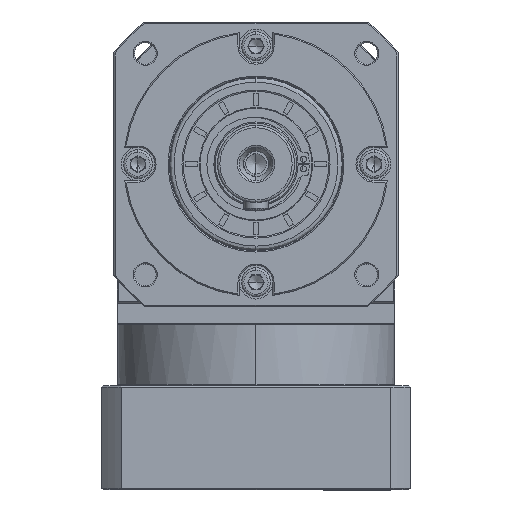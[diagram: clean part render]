
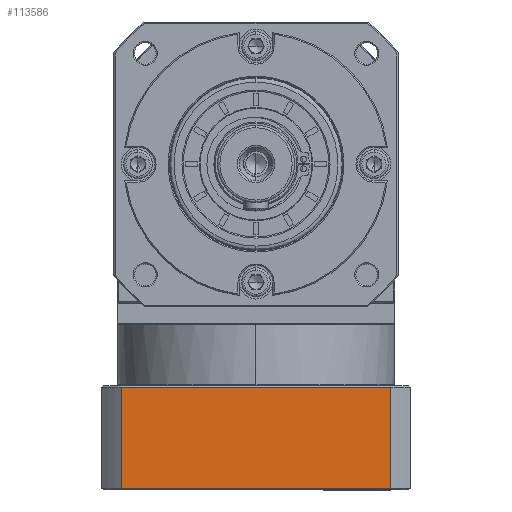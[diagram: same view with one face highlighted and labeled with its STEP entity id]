
A CAD part, top view. The second image highlights one B-rep face of the part: STEP entity #113586.
In plain terms, the highlighted planar face has unit normal (0, 0, 1).
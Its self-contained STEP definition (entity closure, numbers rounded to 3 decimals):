
#1876 = ORIENTED_EDGE ( 'NONE', *, *, #34845, .F. ) ;
#7610 = ORIENTED_EDGE ( 'NONE', *, *, #108101, .F. ) ;
#7677 = CARTESIAN_POINT ( 'NONE',  ( -102.715, 90.11, 127.258 ) ) ;
#11389 = CARTESIAN_POINT ( 'NONE',  ( -222.652, -162.804, 127.258 ) ) ;
#12661 = FACE_OUTER_BOUND ( 'NONE', #72425, .T. ) ;
#15744 = LINE ( 'NONE', #7677, #67215 ) ;
#20593 = CARTESIAN_POINT ( 'NONE',  ( -102.715, -204.804, 127.258 ) ) ;
#26061 = CARTESIAN_POINT ( 'NONE',  ( -222.652, -204.804, 127.258 ) ) ;
#26830 = CARTESIAN_POINT ( 'NONE',  ( -102.715, -162.804, 127.258 ) ) ;
#34650 = DIRECTION ( 'NONE',  ( -1., 0., 0. ) ) ;
#34845 = EDGE_CURVE ( 'NONE', #88624, #143775, #158742, .T. ) ;
#41157 = ORIENTED_EDGE ( 'NONE', *, *, #168565, .F. ) ;
#46347 = CARTESIAN_POINT ( 'NONE',  ( -214.59, -162.804, 127.258 ) ) ;
#55049 = DIRECTION ( 'NONE',  ( 0., 1., 0. ) ) ;
#56727 = CARTESIAN_POINT ( 'NONE',  ( -214.59, -205.304, 127.258 ) ) ;
#67215 = VECTOR ( 'NONE', #152268, 1000. ) ;
#72425 = EDGE_LOOP ( 'NONE', ( #7610, #41157, #1876, #113796 ) ) ;
#83881 = AXIS2_PLACEMENT_3D ( 'NONE', #97875, #110509, #97330 ) ;
#88624 = VERTEX_POINT ( 'NONE', #159340 ) ;
#96782 = PLANE ( 'NONE',  #83881 ) ;
#97330 = DIRECTION ( 'NONE',  ( -1., 0., 0. ) ) ;
#97875 = CARTESIAN_POINT ( 'NONE',  ( -222.652, -205.304, 127.258 ) ) ;
#108101 = EDGE_CURVE ( 'NONE', #169600, #149917, #15744, .T. ) ;
#110509 = DIRECTION ( 'NONE',  ( 0., 0., -1. ) ) ;
#111472 = VECTOR ( 'NONE', #55049, 1000. ) ;
#113586 = ADVANCED_FACE ( 'NONE', ( #12661 ), #96782, .F. ) ;
#113796 = ORIENTED_EDGE ( 'NONE', *, *, #131063, .F. ) ;
#130726 = DIRECTION ( 'NONE',  ( 1., 0., 0. ) ) ;
#131063 = EDGE_CURVE ( 'NONE', #149917, #88624, #164947, .T. ) ;
#132052 = VECTOR ( 'NONE', #34650, 1000. ) ;
#143775 = VERTEX_POINT ( 'NONE', #46347 ) ;
#149917 = VERTEX_POINT ( 'NONE', #20593 ) ;
#152268 = DIRECTION ( 'NONE',  ( 0., -1., 0. ) ) ;
#158742 = LINE ( 'NONE', #56727, #111472 ) ;
#159340 = CARTESIAN_POINT ( 'NONE',  ( -214.59, -204.804, 127.258 ) ) ;
#164639 = VECTOR ( 'NONE', #130726, 1000. ) ;
#164947 = LINE ( 'NONE', #26061, #132052 ) ;
#168565 = EDGE_CURVE ( 'NONE', #143775, #169600, #168736, .T. ) ;
#168736 = LINE ( 'NONE', #11389, #164639 ) ;
#169600 = VERTEX_POINT ( 'NONE', #26830 ) ;
